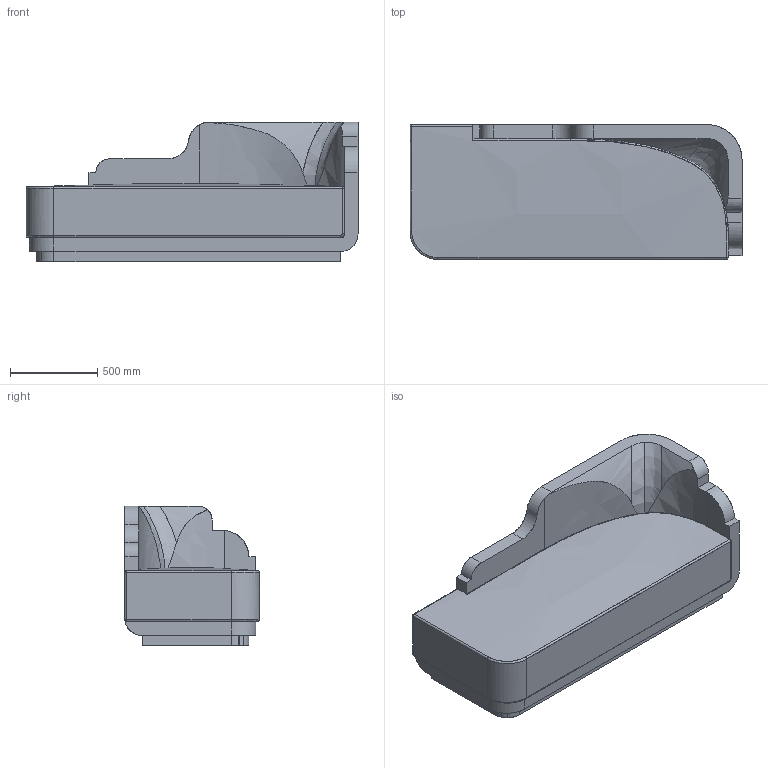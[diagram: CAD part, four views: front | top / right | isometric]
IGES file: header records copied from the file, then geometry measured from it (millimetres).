
Start section: SolidWorks IGES file using analytic representation for surfaces
Global section: file name: G:\Echant et Market\20-MOBILIER\MODELISATION 3D\mod; native system: Rhinoceros ( Oct 20 2021 ); preprocessor: Trout Lake IGES 012 Oct 20 2021; date: 211124.093937; units: millimetre
Bounding box: 1900 x 770 x 800 mm (x, y, z)
Surface area: 10124273 mm2 (no closed solid volume)
Topology: 0 solids, 0 shells, 113 faces, 2133 edges, 2105 vertices
Faces by surface type: bspline 113
